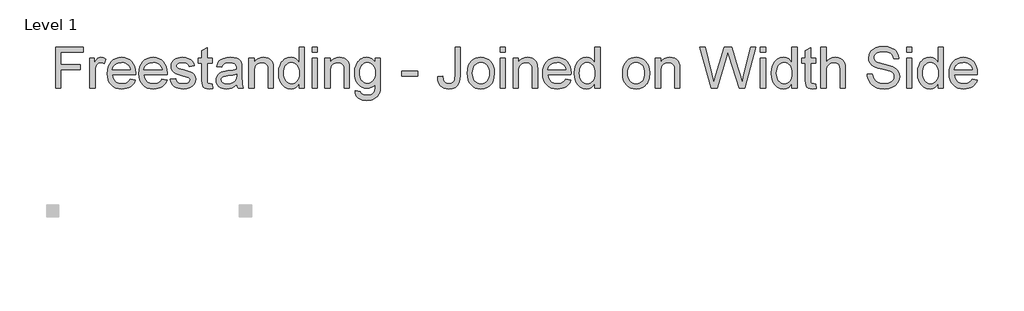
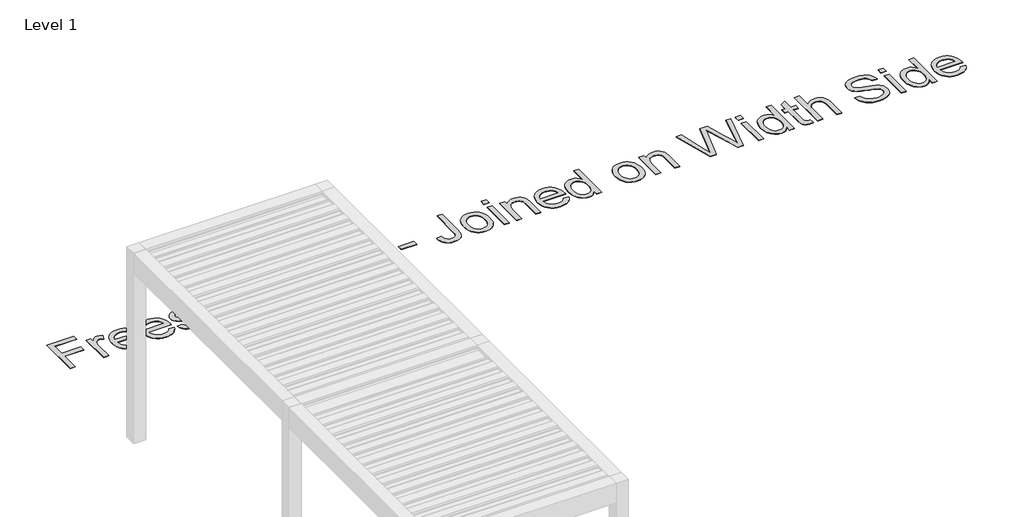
# One storey, part 8 of 69: 1 proxy.
"""IFC4 building model written with IfcOpenShell, lengths in millimetres."""

from ifc_helpers import new_model, si_unit, origin, origin_with_axes, place, context, project, spatial, polyline, outline, extrude, element, save

model = new_model("IFC4")

# Units and contexts
model_context = context("Model", 3, world=origin())
ifc_project = project(units=[si_unit("LENGTHUNIT", "METRE", prefix="MILLI")], contexts=[model_context])

# Site, building, storey
site = spatial("IfcSite", under=ifc_project)
building = spatial("IfcBuilding", under=site)
storey = spatial("IfcBuildingStorey", under=building, Name="Level 1", Elevation=0.0)

# Proxy
placement = place(None, origin())
element("IfcBuildingElementProxy", 1, Name="500mm Arial", ObjectType="500mm Arial", at=placement, inside=storey, context=model_context, shape_type="SweptSolid", body=[
    extrude(outline(polyline([(-6649.8308276, -47735.0305834), (-6649.8308276, -47232.7490326), (-6312.3604107, -47232.7490326), (-6312.3604107, -47295.5342265), (-6587.0456337, -47295.5342265), (-6587.0456337, -47444.6490618), (-6351.6011568, -47444.6490618), (-6351.6011568, -47507.4342557), (-6587.0456337, -47507.4342557), (-6587.0456337, -47735.0305834), (-6649.8308276, -47735.0305834)])), origin_with_axes(), (0.0, 0.0, 1.0), 5.0),
    extrude(outline(polyline([(-6233.8789184, -47735.0305834), (-6233.8789184, -47366.1675695), (-6178.9418738, -47366.1675695), (-6178.9418738, -47420.7367321), (-6158.6470504, -47389.0988806), (-6139.9463823, -47370.4595261), (-6121.1844005, -47361.3544468), (-6100.7056361, -47358.3194203), (-6069.4356665, -47363.1631999), (-6037.6751876, -47377.6945387), (-6058.6444613, -47433.980484), (-6080.717381, -47424.3235816), (-6102.7903007, -47421.1046141), (-6121.5369541, -47424.2009543), (-6138.2909133, -47433.4899746), (-6151.825905, -47448.2665681), (-6160.915656, -47467.8256275), (-6168.5492074, -47502.8970444), (-6171.0937245, -47541.1567719), (-6171.0937245, -47735.0305834), (-6233.8789184, -47735.0305834)])), origin_with_axes(), (0.0, 0.0, 1.0), 5.0),
    extrude(outline(polyline([(-5740.1812808, -47625.1564941), (-5678.6223603, -47633.0046434), (-5688.0608327, -47657.6604013), (-5700.8025789, -47679.3884316), (-5716.8475989, -47698.1887344), (-5736.1958926, -47714.0613096), (-5758.6481906, -47726.6689322), (-5784.0052235, -47735.6743769), (-5812.2669914, -47741.0776437), (-5843.4334942, -47742.8787326), (-5882.3906646, -47739.7708962), (-5917.1018637, -47730.4473868), (-5947.5670914, -47714.9082046), (-5973.7863478, -47693.1533496), (-5994.8705846, -47665.7882941), (-6009.9307538, -47633.4185106), (-6018.9668553, -47596.0439992), (-6021.9788891, -47553.6647597), (-6018.9361985, -47509.8484813), (-6009.8081265, -47471.228536), (-5994.5946731, -47437.8049239), (-5973.2958384, -47409.577645), (-5947.14556, -47387.1521717), (-5917.3777752, -47371.1339765), (-5883.9924841, -47361.5230593), (-5846.9896868, -47358.3194203), (-5811.1786738, -47361.5153951), (-5778.7935619, -47371.1033196), (-5749.8343511, -47387.0831938), (-5724.3010414, -47409.4550176), (-5703.4582271, -47437.6209829), (-5688.5705026, -47470.9832813), (-5679.6378679, -47509.5419129), (-5676.660323, -47553.2968777), (-5677.028205, -47570.2194495), (-5959.1936953, -47570.2194495), (-5955.5570285, -47595.2737462), (-5948.325848, -47617.2163744), (-5937.5001539, -47636.047334), (-5923.0799461, -47651.7666251), (-5905.8623023, -47664.1596498), (-5886.6443002, -47673.0118103), (-5865.4259397, -47678.3231066), (-5842.2072208, -47680.0935387), (-5808.7912729, -47676.8132576), (-5780.6483003, -47666.9724143), (-5757.7783029, -47649.957872), (-5740.1812808, -47625.1564941)]), holes=[polyline([(-5959.1936953, -47507.4342557), (-5739.4455168, -47507.4342557), (-5747.9374596, -47474.2635624), (-5764.5841199, -47450.5351738), (-5781.705961, -47437.6593039), (-5801.1883784, -47428.462254), (-5823.0313718, -47422.9440241), (-5847.2349414, -47421.1046141), (-5889.5566993, -47426.9753977), (-5907.9699596, -47434.313877), (-5924.5514741, -47444.5877482), (-5938.4658441, -47457.3218301), (-5948.877671, -47472.0409421), (-5955.7869547, -47488.7450839), (-5959.1936953, -47507.4342557)])]), origin_with_axes(), (0.0, 0.0, 1.0), 5.0),
    extrude(outline(polyline([(-5355.6219685, -47625.1564941), (-5294.063048, -47633.0046434), (-5303.5015205, -47657.6604013), (-5316.2432666, -47679.3884316), (-5332.2882866, -47698.1887344), (-5351.6365803, -47714.0613096), (-5374.0888783, -47726.6689322), (-5399.4459112, -47735.6743769), (-5427.7076791, -47741.0776437), (-5458.8741819, -47742.8787326), (-5497.8313523, -47739.7708962), (-5532.5425514, -47730.4473868), (-5563.0077791, -47714.9082046), (-5589.2270355, -47693.1533496), (-5610.3112723, -47665.7882941), (-5625.3714415, -47633.4185106), (-5634.407543, -47596.0439992), (-5637.4195769, -47553.6647597), (-5634.3768862, -47509.8484813), (-5625.2488142, -47471.228536), (-5610.0353608, -47437.8049239), (-5588.7365262, -47409.577645), (-5562.5862477, -47387.1521717), (-5532.8184629, -47371.1339765), (-5499.4331718, -47361.5230593), (-5462.4303745, -47358.3194203), (-5426.6193615, -47361.5153951), (-5394.2342496, -47371.1033196), (-5365.2750388, -47387.0831938), (-5339.7417291, -47409.4550176), (-5318.8989148, -47437.6209829), (-5304.0111903, -47470.9832813), (-5295.0785556, -47509.5419129), (-5292.1010107, -47553.2968777), (-5292.4688927, -47570.2194495), (-5574.634383, -47570.2194495), (-5570.9977162, -47595.2737462), (-5563.7665357, -47617.2163744), (-5552.9408416, -47636.047334), (-5538.5206338, -47651.7666251), (-5521.30299, -47664.1596498), (-5502.0849879, -47673.0118103), (-5480.8666274, -47678.3231066), (-5457.6479085, -47680.0935387), (-5424.2319606, -47676.8132576), (-5396.088988, -47666.9724143), (-5373.2189906, -47649.957872), (-5355.6219685, -47625.1564941)]), holes=[polyline([(-5574.634383, -47507.4342557), (-5354.8862046, -47507.4342557), (-5363.3781473, -47474.2635624), (-5380.0248076, -47450.5351738), (-5397.1466488, -47437.6593039), (-5416.6290661, -47428.462254), (-5438.4720595, -47422.9440241), (-5462.6756291, -47421.1046141), (-5504.997387, -47426.9753977), (-5523.4106473, -47434.313877), (-5539.9921618, -47444.5877482), (-5553.9065318, -47457.3218301), (-5564.3183587, -47472.0409421), (-5571.2276424, -47488.7450839), (-5574.634383, -47507.4342557)])]), origin_with_axes(), (0.0, 0.0, 1.0), 5.0),
    extrude(outline(polyline([(-5252.8602646, -47625.1564941), (-5190.0750707, -47617.3083449), (-5180.1729137, -47644.1637306), (-5161.0123931, -47663.906731), (-5132.4708816, -47676.0468368), (-5094.425752, -47680.0935387), (-5056.8404748, -47676.384062), (-5030.4142848, -47665.2556316), (-5014.7793, -47649.1301375), (-5009.5676384, -47630.4294694), (-5014.8099568, -47614.4266026), (-5030.5369121, -47602.2251831), (-5095.161516, -47584.3215927), (-5152.4591367, -47567.7515745), (-5189.7071887, -47553.6034461), (-5213.6348468, -47538.1677307), (-5230.9712858, -47517.7349515), (-5241.501908, -47493.608024), (-5245.0121153, -47467.0898635), (-5242.1916867, -47442.7636666), (-5233.7304008, -47420.3075365), (-5220.3946785, -47400.6105213), (-5202.9509405, -47384.5616693), (-5185.6145015, -47374.4602428), (-5163.0357441, -47365.9836285), (-5136.9314508, -47360.2354724), (-5109.0184044, -47358.3194203), (-5068.1528461, -47361.400432), (-5032.6215768, -47370.6434671), (-5004.0494085, -47385.1441491), (-4984.0611534, -47403.9981014), (-4970.8174016, -47428.6002098), (-4962.478743, -47460.3453603), (-5025.2639369, -47468.1935095), (-5033.1887282, -47448.4351807), (-5048.8696982, -47433.5512883), (-5072.4601312, -47424.2162827), (-5104.1133112, -47421.1046141), (-5140.1657467, -47424.0783269), (-5164.2007037, -47432.9994653), (-5177.720367, -47445.8753352), (-5182.2269215, -47460.7132423), (-5180.3568547, -47470.3701447), (-5174.7466543, -47478.9847147), (-5165.1510655, -47486.6795798), (-5151.3248339, -47492.8416032), (-5097.2461806, -47506.2079824), (-5005.0917408, -47535.7611693), (-4980.7502155, -47549.8939693), (-4962.294802, -47569.2384309), (-4950.6605339, -47593.8558677), (-4946.7824446, -47623.8075935), (-4951.3349843, -47654.7709947), (-4964.9926033, -47683.894986), (-4987.2341356, -47708.8956333), (-5017.538415, -47727.4890025), (-5054.1426735, -47739.0313001), (-5095.2841433, -47742.8787326), (-5129.0756374, -47741.0239942), (-5158.5905033, -47735.459779), (-5183.828741, -47726.1860871), (-5204.7903505, -47713.2029183), (-5221.9121917, -47696.5715864), (-5235.6311245, -47676.3534051), (-5245.9471487, -47652.5483744), (-5252.8602646, -47625.1564941)])), origin_with_axes(), (0.0, 0.0, 1.0), 5.0),
    extrude(outline(polyline([(-4742.7305646, -47682.6687127), (-4734.8824154, -47736.8699933), (-4781.8486834, -47742.8787326), (-4811.9843502, -47740.2729018), (-4834.4558087, -47732.4554094), (-4850.3360482, -47720.4072741), (-4860.6980577, -47705.1095144), (-4866.4002286, -47678.8366086), (-4868.3009523, -47633.8630347), (-4868.3009523, -47428.9527634), (-4915.3898477, -47428.9527634), (-4915.3898477, -47366.1675695), (-4868.3009523, -47366.1675695), (-4868.3009523, -47276.52699), (-4805.5157584, -47239.6161632), (-4805.5157584, -47366.1675695), (-4742.7305646, -47366.1675695), (-4742.7305646, -47428.9527634), (-4805.5157584, -47428.9527634), (-4805.5157584, -47632.0236247), (-4802.2048205, -47664.3972403), (-4791.4749289, -47675.8628958), (-4770.0764596, -47680.0935387), (-4742.7305646, -47682.6687127)])), origin_with_axes(), (0.0, 0.0, 1.0), 5.0),
    extrude(outline(polyline([(-4444.5008938, -47687.941688), (-4474.4986048, -47713.6627708), (-4505.385364, -47730.4933721), (-4537.8662785, -47739.7823925), (-4572.6464555, -47742.8787326), (-4600.601655, -47741.01633), (-4625.115625, -47735.4291222), (-4646.1883656, -47726.1171092), (-4663.8198766, -47713.080291), (-4677.7419109, -47697.1464021), (-4687.6862211, -47679.1431769), (-4693.6528072, -47659.0706156), (-4695.6416692, -47636.928718), (-4692.6372996, -47610.9010668), (-4683.6241907, -47587.2646486), (-4669.721317, -47567.0311389), (-4652.0476528, -47551.2122131), (-4631.2776485, -47539.2560483), (-4608.0857543, -47530.6108214), (-4553.7618464, -47521.1685168), (-4489.5664382, -47511.235703), (-4444.8687758, -47499.5861064), (-4444.5008938, -47485.6065906), (-4448.8235073, -47457.5862453), (-4461.7913476, -47439.2534592), (-4474.8664868, -47431.3133395), (-4490.7927116, -47425.6418254), (-4531.1984174, -47421.1046141), (-4568.5997535, -47424.1243122), (-4594.7193752, -47433.1834063), (-4612.5309951, -47449.9373655), (-4625.0083261, -47476.0416588), (-4687.79352, -47468.1935095), (-4676.8950159, -47433.8578566), (-4660.631566, -47406.8798437), (-4637.4856571, -47386.2477951), (-4605.939776, -47370.9500355), (-4567.3581518, -47361.4770741), (-4523.1050135, -47358.3194203), (-4480.6606283, -47361.1091921), (-4447.0147541, -47369.4785075), (-4421.6462249, -47382.0631374), (-4404.0338744, -47397.4988528), (-4392.353621, -47416.5827313), (-4384.7813833, -47440.1118506), (-4381.7157, -47495.0488952), (-4381.7157, -47573.1625055), (-4378.5273894, -47682.2395171), (-4373.8062371, -47709.2022016), (-4366.0194015, -47735.0305834), (-4428.8045954, -47735.0305834), (-4438.8600366, -47713.2029183), (-4444.5008938, -47687.941688)]), holes=[polyline([(-4444.5008938, -47562.3713003), (-4486.6846959, -47572.8252803), (-4545.7910698, -47581.6237914), (-4599.8084095, -47591.8018599), (-4613.8645674, -47598.760961), (-4624.2725621, -47608.3565497), (-4630.710497, -47619.852862), (-4632.8564754, -47632.514134), (-4628.1813083, -47651.1841453), (-4614.1558073, -47666.4819049), (-4591.0865405, -47676.6906303), (-4559.2800763, -47680.0935387), (-4525.5575601, -47676.3380767), (-4495.7591185, -47665.0716906), (-4471.6015341, -47648.4710156), (-4454.8015897, -47628.7126868), (-4447.3519793, -47608.3565497), (-4444.8687758, -47580.1522634), (-4444.5008938, -47562.3713003)])]), origin_with_axes(), (0.0, 0.0, 1.0), 5.0),
    extrude(outline(polyline([(-4295.3860584, -47735.0305834), (-4295.3860584, -47366.1675695), (-4232.6008646, -47366.1675695), (-4232.6008646, -47417.6710489), (-4210.788528, -47391.7047114), (-4184.5922642, -47373.1573274), (-4154.0120734, -47362.0288971), (-4119.0479554, -47358.3194203), (-4088.0998826, -47361.3084615), (-4059.7576405, -47370.2755851), (-4036.1212223, -47384.1018168), (-4019.2906211, -47401.6681821), (-4007.8709508, -47422.9286957), (-4000.4673256, -47447.8373725), (-3997.1563877, -47508.5379017), (-3997.1563877, -47735.0305834), (-4059.9415815, -47735.0305834), (-4059.9415815, -47516.9991876), (-4061.7503347, -47484.5336015), (-4067.1765941, -47461.4490063), (-4077.1860501, -47444.9096449), (-4092.7443928, -47432.0797603), (-4112.6866626, -47423.8484007), (-4135.8478999, -47421.1046141), (-4154.9126179, -47422.64512), (-4172.620771, -47427.2666376), (-4188.9723592, -47434.9691668), (-4203.9673826, -47445.7527078), (-4216.494531, -47460.8435338), (-4225.4424941, -47481.4679182), (-4230.811272, -47507.6258609), (-4232.6008646, -47539.3173619), (-4232.6008646, -47735.0305834), (-4295.3860584, -47735.0305834)])), origin_with_axes(), (0.0, 0.0, 1.0), 5.0),
    extrude(outline(polyline([(-3683.2304185, -47735.0305834), (-3683.2304185, -47675.8015821), (-3702.0153929, -47705.1478355), (-3724.7704271, -47726.109445), (-3751.4955212, -47738.6864107), (-3782.1906752, -47742.8787326), (-3822.780322, -47736.8086797), (-3859.9364035, -47718.5985209), (-3891.3903141, -47689.5205149), (-3914.8734481, -47650.8469201), (-3929.4967574, -47604.1412352), (-3934.3711938, -47550.9669584), (-3929.8799678, -47498.4518036), (-3916.4062897, -47451.0256831), (-3906.3048633, -47429.895461), (-3893.965488, -47411.3863981), (-3879.388164, -47395.4984944), (-3862.5728911, -47382.23175), (-3824.6044035, -47364.2975027), (-3782.4359298, -47358.3194203), (-3751.7177832, -47362.5960485), (-3724.5558293, -47375.4259331), (-3701.5325477, -47395.0922914), (-3683.2304185, -47419.8783408), (-3683.2304185, -47232.7490326), (-3620.4452246, -47232.7490326), (-3620.4452246, -47735.0305834), (-3683.2304185, -47735.0305834)]), holes=[polyline([(-3871.586, -47550.7217038), (-3869.8155679, -47581.167771), (-3864.5042716, -47607.5134868), (-3855.6521111, -47629.7588512), (-3843.2590864, -47647.9038642), (-3828.4595003, -47661.9868468), (-3812.3876556, -47672.0461201), (-3795.0435524, -47678.0816841), (-3776.4271906, -47680.0935387), (-3757.7226904, -47678.1736546), (-3740.482054, -47672.4140021), (-3724.7052813, -47662.8145813), (-3710.3923724, -47649.3753922), (-3698.5090176, -47631.9891358), (-3690.020907, -47610.5485132), (-3684.9280406, -47585.0535246), (-3683.2304185, -47555.5041697), (-3684.9586974, -47523.1075615), (-3690.1435343, -47495.3248067), (-3698.7849291, -47472.1559052), (-3710.8828818, -47453.6008571), (-3725.5100232, -47439.3837508), (-3741.7389841, -47429.2286749), (-3759.5697646, -47423.1356293), (-3779.0023645, -47421.1046141), (-3797.9866083, -47423.0551551), (-3815.3307116, -47428.9067781), (-3831.0346742, -47438.6594831), (-3845.0984963, -47452.3132701), (-3856.6867792, -47470.1670431), (-3864.9641241, -47492.5197065), (-3869.930531, -47519.37126), (-3871.586, -47550.7217038)])]), origin_with_axes(), (0.0, 0.0, 1.0), 5.0),
    extrude(outline(polyline([(-3526.2674339, -47735.0305834), (-3526.2674339, -47366.1675695), (-3463.48224, -47366.1675695), (-3463.48224, -47735.0305834), (-3526.2674339, -47735.0305834)])), origin_with_axes(), (0.0, 0.0, 1.0), 5.0),
    extrude(outline(polyline([(-3526.2674339, -47295.5342265), (-3526.2674339, -47232.7490326), (-3463.48224, -47232.7490326), (-3463.48224, -47295.5342265), (-3526.2674339, -47295.5342265)])), origin_with_axes(), (0.0, 0.0, 1.0), 5.0),
    extrude(outline(polyline([(-3369.3044493, -47735.0305834), (-3369.3044493, -47366.1675695), (-3306.5192554, -47366.1675695), (-3306.5192554, -47417.6710489), (-3284.7069188, -47391.7047114), (-3258.510655, -47373.1573274), (-3227.9304642, -47362.0288971), (-3192.9663462, -47358.3194203), (-3162.0182734, -47361.3084615), (-3133.6760313, -47370.2755851), (-3110.0396132, -47384.1018168), (-3093.2090119, -47401.6681821), (-3081.7893416, -47422.9286957), (-3074.3857165, -47447.8373725), (-3071.0747785, -47508.5379017), (-3071.0747785, -47735.0305834), (-3133.8599723, -47735.0305834), (-3133.8599723, -47516.9991876), (-3135.6687255, -47484.5336015), (-3141.0949849, -47461.4490063), (-3151.1044409, -47444.9096449), (-3166.6627836, -47432.0797603), (-3186.6050534, -47423.8484007), (-3209.7662907, -47421.1046141), (-3228.8310087, -47422.64512), (-3246.5391618, -47427.2666376), (-3262.89075, -47434.9691668), (-3277.8857735, -47445.7527078), (-3290.4129218, -47460.8435338), (-3299.3608849, -47481.4679182), (-3304.7296628, -47507.6258609), (-3306.5192554, -47539.3173619), (-3306.5192554, -47735.0305834), (-3369.3044493, -47735.0305834)])), origin_with_axes(), (0.0, 0.0, 1.0), 5.0),
    extrude(outline(polyline([(-3000.4414354, -47766.4231803), (-2937.6562416, -47774.2713295), (-2930.7277973, -47793.8917026), (-2917.3001045, -47807.3807091), (-2890.9045714, -47817.8653459), (-2856.3543206, -47821.3602249), (-2819.5048075, -47817.4054934), (-2792.0975988, -47805.5412991), (-2773.0903624, -47786.5340627), (-2761.4407659, -47761.150205), (-2758.0378574, -47734.1415352), (-2757.1488093, -47687.941688), (-2778.0414409, -47708.5430797), (-2801.3559624, -47723.2583595), (-2827.0923736, -47732.0875274), (-2855.2506747, -47735.0305834), (-2889.6744659, -47731.6046823), (-2919.9825774, -47721.326979), (-2946.175009, -47704.1974736), (-2968.2517608, -47680.2161661), (-2985.7683088, -47651.4447284), (-2998.2801287, -47619.9448325), (-3005.7872207, -47585.7164786), (-3008.2895847, -47548.7596665), (-3003.7983586, -47498.0685932), (-2990.3246806, -47451.4548787), (-2968.3437313, -47411.9535495), (-2954.3412229, -47396.0081643), (-2938.3306919, -47382.599632), (-2920.5688893, -47371.9770394), (-2901.3125661, -47364.3894732), (-2880.5617223, -47359.8369335), (-2858.316358, -47358.3194203), (-2828.9547762, -47361.7529856), (-2802.3063242, -47372.0536815), (-2778.3710019, -47389.2215079), (-2757.1488093, -47413.2564649), (-2757.1488093, -47366.1675695), (-2694.3636154, -47366.1675695), (-2694.3636154, -47684.63075), (-2698.655572, -47758.1611638), (-2704.0205178, -47785.5108909), (-2711.5314419, -47806.5836314), (-2733.7116605, -47838.6966639), (-2765.9166635, -47863.2987723), (-2785.6021823, -47872.4191801), (-2807.4413437, -47878.9337571), (-2857.580594, -47884.1454187), (-2888.3408937, -47882.3098409), (-2915.9971891, -47876.8031073), (-2940.5494802, -47867.6252179), (-2961.9977669, -47854.7761728), (-2979.3227096, -47838.2406435), (-2991.5049686, -47818.0033017), (-2998.5445439, -47794.0641473), (-3000.4414354, -47766.4231803)]), holes=[polyline([(-2945.5043908, -47544.4677099), (-2943.8297613, -47575.5115853), (-2938.8058728, -47602.0565705), (-2930.4327253, -47624.1026655), (-2918.7103188, -47641.6498703), (-2904.4587236, -47655.0354099), (-2888.49801, -47664.5965097), (-2870.8281779, -47670.3331696), (-2851.4492274, -47672.2453895), (-2832.2618821, -47670.3446659), (-2814.6763563, -47664.642495), (-2798.69265, -47655.1388767), (-2784.3107633, -47641.8338112), (-2772.4274084, -47624.4590512), (-2763.9392978, -47602.7463493), (-2758.8464314, -47576.6957055), (-2757.1488093, -47546.3071198), (-2758.8962488, -47517.1869607), (-2764.1385672, -47491.875913), (-2772.8757646, -47470.3739768), (-2785.1078409, -47452.6811521), (-2799.8001281, -47438.8664167), (-2815.917958, -47428.9987486), (-2833.4613307, -47423.0781478), (-2852.430246, -47421.1046141), (-2871.0810968, -47423.0474909), (-2888.2834121, -47428.8761213), (-2904.0371922, -47438.5905052), (-2918.3424368, -47452.1906427), (-2930.2257917, -47469.6152202), (-2938.7139023, -47490.8029238), (-2943.8067687, -47515.7537537), (-2945.5043908, -47544.4677099)])]), origin_with_axes(), (0.0, 0.0, 1.0), 5.0),
    extrude(outline(polyline([(-2435.3746908, -47585.915748), (-2435.3746908, -47523.1305541), (-2239.1709601, -47523.1305541), (-2239.1709601, -47585.915748), (-2435.3746908, -47585.915748)])), origin_with_axes(), (0.0, 0.0, 1.0), 5.0),
    extrude(outline(polyline([(-1995.8783339, -47594.0091519), (-1933.0931401, -47585.915748), (-1926.5632347, -47631.5637722), (-1920.1482924, -47647.972842), (-1911.633357, -47660.1052837), (-1888.8246733, -47675.096475), (-1858.6583497, -47680.0935387), (-1835.4664556, -47677.2577817), (-1815.67747, -47668.7505106), (-1800.4103672, -47655.3534746), (-1790.7841216, -47637.848423), (-1785.6797589, -47612.5105506), (-1783.9783047, -47575.6150521), (-1783.9783047, -47232.7490326), (-1721.1931109, -47232.7490326), (-1721.1931109, -47574.5114061), (-1724.9792297, -47630.414141), (-1736.3375863, -47672.0614485), (-1755.9273026, -47702.4883552), (-1784.4075004, -47724.7298875), (-1820.168696, -47738.3415213), (-1861.6014057, -47742.8787326), (-1892.5418143, -47740.537317), (-1919.6347904, -47733.5130701), (-1942.880334, -47721.8059921), (-1962.278445, -47705.4160827), (-1977.4842342, -47684.4046559), (-1988.152812, -47658.8330251), (-1994.2841786, -47628.7011904), (-1995.8783339, -47594.0091519)])), origin_with_axes(), (0.0, 0.0, 1.0), 5.0),
    extrude(outline(polyline([(-1634.8634693, -47550.5990764), (-1631.4682251, -47502.8280665), (-1621.2824923, -47461.6636041), (-1604.3062711, -47427.1056892), (-1580.5395614, -47399.1543218), (-1556.6119033, -47381.2890524), (-1530.2010417, -47368.5281457), (-1501.3069767, -47360.8716016), (-1469.9297082, -47358.3194203), (-1435.291319, -47361.4272567), (-1403.9715321, -47370.7507661), (-1375.9703473, -47386.2899482), (-1351.2877647, -47408.0448033), (-1331.1423934, -47435.2795673), (-1316.7528424, -47467.2584761), (-1308.1191118, -47503.9815299), (-1305.2412016, -47545.4487285), (-1310.3302359, -47608.8777158), (-1316.6915287, -47634.9130312), (-1325.5973387, -47657.1622277), (-1336.9365348, -47676.3802299), (-1350.597986, -47693.3219622), (-1366.5816922, -47707.9874246), (-1384.8876536, -47720.3766172), (-1425.6152562, -47737.2532037), (-1469.9297082, -47742.8787326), (-1505.073935, -47739.7823925), (-1536.6849619, -47730.4933721), (-1564.7627887, -47715.0116715), (-1589.3074156, -47693.3372906), (-1609.2381891, -47665.8381114), (-1623.4744559, -47632.882016), (-1632.016216, -47594.4690044), (-1634.8634693, -47550.5990764)]), holes=[polyline([(-1572.0782755, -47550.4764491), (-1570.2618581, -47580.9301805), (-1564.8126061, -47607.298889), (-1555.7305193, -47629.5825744), (-1543.0155979, -47647.7812368), (-1527.5492257, -47661.9178689), (-1510.2127866, -47672.0154633), (-1491.0062808, -47678.0740199), (-1469.9297082, -47680.0935387), (-1448.9604344, -47678.0625236), (-1429.8305707, -47671.969478), (-1412.5401169, -47661.8144021), (-1397.0890731, -47647.5972958), (-1384.3741517, -47629.2185245), (-1375.2920649, -47606.5784534), (-1369.8428128, -47579.6770825), (-1368.0263955, -47548.5144118), (-1369.8543092, -47519.0263706), (-1375.3380501, -47493.3474409), (-1384.4776185, -47471.4776228), (-1397.2730141, -47453.4169161), (-1412.7815395, -47439.280284), (-1430.0604969, -47429.1826896), (-1449.1098865, -47423.124133), (-1469.9297082, -47421.1046141), (-1491.0062808, -47423.1164688), (-1510.2127866, -47429.1520328), (-1527.5492257, -47439.2113061), (-1543.0155979, -47453.2942887), (-1555.7305193, -47471.4393017), (-1564.8126061, -47493.6846661), (-1570.2618581, -47520.0303819), (-1572.0782755, -47550.4764491)])]), origin_with_axes(), (0.0, 0.0, 1.0), 5.0),
    extrude(outline(polyline([(-1234.6078586, -47295.5342265), (-1234.6078586, -47232.7490326), (-1171.8226647, -47232.7490326), (-1171.8226647, -47295.5342265), (-1234.6078586, -47295.5342265)])), origin_with_axes(), (0.0, 0.0, 1.0), 5.0),
    extrude(outline(polyline([(-1234.6078586, -47735.0305834), (-1234.6078586, -47366.1675695), (-1171.8226647, -47366.1675695), (-1171.8226647, -47735.0305834), (-1234.6078586, -47735.0305834)])), origin_with_axes(), (0.0, 0.0, 1.0), 5.0),
    extrude(outline(polyline([(-1077.644874, -47735.0305834), (-1077.644874, -47366.1675695), (-1014.8596801, -47366.1675695), (-1014.8596801, -47417.6710489), (-993.0473435, -47391.7047114), (-966.8510798, -47373.1573274), (-936.2708889, -47362.0288971), (-901.3067709, -47358.3194203), (-870.3586981, -47361.3084615), (-842.0164561, -47370.2755851), (-818.3800379, -47384.1018168), (-801.5494366, -47401.6681821), (-790.1297663, -47422.9286957), (-782.7261412, -47447.8373725), (-779.4152032, -47508.5379017), (-779.4152032, -47735.0305834), (-842.2003971, -47735.0305834), (-842.2003971, -47516.9991876), (-844.0091502, -47484.5336015), (-849.4354096, -47461.4490063), (-859.4448656, -47444.9096449), (-875.0032083, -47432.0797603), (-894.9454781, -47423.8484007), (-918.1067154, -47421.1046141), (-937.1714334, -47422.64512), (-954.8795865, -47427.2666376), (-971.2311748, -47434.9691668), (-986.2261982, -47445.7527078), (-998.7533465, -47460.8435338), (-1007.7013096, -47481.4679182), (-1013.0700875, -47507.6258609), (-1014.8596801, -47539.3173619), (-1014.8596801, -47735.0305834), (-1077.644874, -47735.0305834)])), origin_with_axes(), (0.0, 0.0, 1.0), 5.0),
    extrude(outline(polyline([(-434.8324011, -47625.1564941), (-373.2734805, -47633.0046434), (-382.711953, -47657.6604013), (-395.4536992, -47679.3884316), (-411.4987191, -47698.1887344), (-430.8470128, -47714.0613096), (-453.2993108, -47726.6689322), (-478.6563437, -47735.6743769), (-506.9181116, -47741.0776437), (-538.0846144, -47742.8787326), (-577.0417848, -47739.7708962), (-611.7529839, -47730.4473868), (-642.2182116, -47714.9082046), (-668.437468, -47693.1533496), (-689.5217048, -47665.7882941), (-704.581874, -47633.4185106), (-713.6179755, -47596.0439992), (-716.6300094, -47553.6647597), (-713.5873187, -47509.8484813), (-704.4592467, -47471.228536), (-689.2457934, -47437.8049239), (-667.9469587, -47409.577645), (-641.7966802, -47387.1521717), (-612.0288954, -47371.1339765), (-578.6436043, -47361.5230593), (-541.640807, -47358.3194203), (-505.829794, -47361.5153951), (-473.4446821, -47371.1033196), (-444.4854713, -47387.0831938), (-418.9521616, -47409.4550176), (-398.1093473, -47437.6209829), (-383.2216228, -47470.9832813), (-374.2889881, -47509.5419129), (-371.3114432, -47553.2968777), (-371.6793252, -47570.2194495), (-653.8448155, -47570.2194495), (-650.2081487, -47595.2737462), (-642.9769682, -47617.2163744), (-632.1512741, -47636.047334), (-617.7310663, -47651.7666251), (-600.5134225, -47664.1596498), (-581.2954204, -47673.0118103), (-560.0770599, -47678.3231066), (-536.8583411, -47680.0935387), (-503.4423932, -47676.8132576), (-475.2994205, -47666.9724143), (-452.4294232, -47649.957872), (-434.8324011, -47625.1564941)]), holes=[polyline([(-653.8448155, -47507.4342557), (-434.0966371, -47507.4342557), (-442.5885798, -47474.2635624), (-459.2352401, -47450.5351738), (-476.3570813, -47437.6593039), (-495.8394986, -47428.462254), (-517.6824921, -47422.9440241), (-541.8860617, -47421.1046141), (-584.2078195, -47426.9753977), (-602.6210798, -47434.313877), (-619.2025943, -47444.5877482), (-633.1169644, -47457.3218301), (-643.5287912, -47472.0409421), (-650.438075, -47488.7450839), (-653.8448155, -47507.4342557)])]), origin_with_axes(), (0.0, 0.0, 1.0), 5.0),
    extrude(outline(polyline([(-80.9299217, -47735.0305834), (-80.9299217, -47675.8015821), (-99.7148961, -47705.1478355), (-122.4699303, -47726.109445), (-149.1950244, -47738.6864107), (-179.8901784, -47742.8787326), (-220.4798252, -47736.8086797), (-257.6359067, -47718.5985209), (-289.0898173, -47689.5205149), (-312.5729513, -47650.8469201), (-327.1962606, -47604.1412352), (-332.0706971, -47550.9669584), (-327.5794711, -47498.4518036), (-314.105793, -47451.0256831), (-304.0043665, -47429.895461), (-291.6649913, -47411.3863981), (-277.0876672, -47395.4984944), (-260.2723943, -47382.23175), (-222.3039068, -47364.2975027), (-180.1354331, -47358.3194203), (-149.4172865, -47362.5960485), (-122.2553325, -47375.4259331), (-99.232051, -47395.0922914), (-80.9299217, -47419.8783408), (-80.9299217, -47232.7490326), (-18.1447279, -47232.7490326), (-18.1447279, -47735.0305834), (-80.9299217, -47735.0305834)]), holes=[polyline([(-269.2855032, -47550.7217038), (-267.5150711, -47581.167771), (-262.2037748, -47607.5134868), (-253.3516143, -47629.7588512), (-240.9585896, -47647.9038642), (-226.1590035, -47661.9868468), (-210.0871588, -47672.0461201), (-192.7430556, -47678.0816841), (-174.1266938, -47680.0935387), (-155.4221936, -47678.1736546), (-138.1815572, -47672.4140021), (-122.4047846, -47662.8145813), (-108.0918757, -47649.3753922), (-96.2085208, -47631.9891358), (-87.7204102, -47610.5485132), (-82.6275438, -47585.0535246), (-80.9299217, -47555.5041697), (-82.6582007, -47523.1075615), (-87.8430375, -47495.3248067), (-96.4844323, -47472.1559052), (-108.582385, -47453.6008571), (-123.2095264, -47439.3837508), (-139.4384874, -47429.2286749), (-157.2692678, -47423.1356293), (-176.7018678, -47421.1046141), (-195.6861116, -47423.0551551), (-213.0302148, -47428.9067781), (-228.7341775, -47438.6594831), (-242.7979996, -47452.3132701), (-254.3862824, -47470.1670431), (-262.6636273, -47492.5197065), (-267.6300343, -47519.37126), (-269.2855032, -47550.7217038)])]), origin_with_axes(), (0.0, 0.0, 1.0), 5.0),
    extrude(outline(polyline([(256.5404952, -47550.5990764), (259.9357395, -47502.8280665), (270.1214722, -47461.6636041), (287.0976934, -47427.1056892), (310.8644032, -47399.1543218), (334.7920613, -47381.2890524), (361.2029228, -47368.5281457), (390.0969879, -47360.8716016), (421.4742564, -47358.3194203), (456.1126455, -47361.4272567), (487.4324324, -47370.7507661), (515.4336172, -47386.2899482), (540.1161998, -47408.0448033), (560.2615712, -47435.2795673), (574.6511221, -47467.2584761), (583.2848527, -47503.9815299), (586.1627629, -47545.4487285), (581.0737286, -47608.8777158), (574.7124358, -47634.9130312), (565.8066258, -47657.1622277), (554.4674297, -47676.3802299), (540.8059786, -47693.3219622), (524.8222723, -47707.9874246), (506.5163109, -47720.3766172), (465.7887084, -47737.2532037), (421.4742564, -47742.8787326), (386.3300295, -47739.7823925), (354.7190027, -47730.4933721), (326.6411758, -47715.0116715), (302.0965489, -47693.3372906), (282.1657754, -47665.8381114), (267.9295086, -47632.882016), (259.3877486, -47594.4690044), (256.5404952, -47550.5990764)]), holes=[polyline([(319.3256891, -47550.4764491), (321.1421064, -47580.9301805), (326.5913585, -47607.298889), (335.6734452, -47629.5825744), (348.3883667, -47647.7812368), (363.8547389, -47661.9178689), (381.1911779, -47672.0154633), (400.3976837, -47678.0740199), (421.4742564, -47680.0935387), (442.4435301, -47678.0625236), (461.5733939, -47671.969478), (478.8638476, -47661.8144021), (494.3148914, -47647.5972958), (507.0298129, -47629.2185245), (516.1118996, -47606.5784534), (521.5611517, -47579.6770825), (523.377569, -47548.5144118), (521.5496554, -47519.0263706), (516.0659144, -47493.3474409), (506.9263461, -47471.4776228), (494.1309504, -47453.4169161), (478.6224251, -47439.280284), (461.3434676, -47429.1826896), (442.294078, -47423.124133), (421.4742564, -47421.1046141), (400.3976837, -47423.1164688), (381.1911779, -47429.1520328), (363.8547389, -47439.2113061), (348.3883667, -47453.2942887), (335.6734452, -47471.4393017), (326.5913585, -47493.6846661), (321.1421064, -47520.0303819), (319.3256891, -47550.4764491)])]), origin_with_axes(), (0.0, 0.0, 1.0), 5.0),
    extrude(outline(polyline([(656.796106, -47735.0305834), (656.796106, -47366.1675695), (719.5812998, -47366.1675695), (719.5812998, -47417.6710489), (741.3936364, -47391.7047114), (767.5899002, -47373.1573274), (798.170091, -47362.0288971), (833.134209, -47358.3194203), (864.0822818, -47361.3084615), (892.4245239, -47370.2755851), (916.0609421, -47384.1018168), (932.8915433, -47401.6681821), (944.3112136, -47422.9286957), (951.7148388, -47447.8373725), (955.0257767, -47508.5379017), (955.0257767, -47735.0305834), (892.2405829, -47735.0305834), (892.2405829, -47516.9991876), (890.4318297, -47484.5336015), (885.0055703, -47461.4490063), (874.9961143, -47444.9096449), (859.4377716, -47432.0797603), (839.4955018, -47423.8484007), (816.3342645, -47421.1046141), (797.2695466, -47422.64512), (779.5613934, -47427.2666376), (763.2098052, -47434.9691668), (748.2147818, -47445.7527078), (735.6876334, -47460.8435338), (726.7396703, -47481.4679182), (721.3708924, -47507.6258609), (719.5812998, -47539.3173619), (719.5812998, -47735.0305834), (656.796106, -47735.0305834)])), origin_with_axes(), (0.0, 0.0, 1.0), 5.0),
    extrude(outline(polyline([(1335.2931324, -47735.0305834), (1198.3184029, -47232.7490326), (1263.065634, -47232.7490326), (1342.528145, -47562.8618096), (1367.0536113, -47664.7651223), (1393.2958603, -47574.6340335), (1492.8692537, -47232.7490326), (1586.1886531, -47232.7490326), (1658.5387788, -47480.57887), (1689.5328369, -47572.5493688), (1712.3721775, -47664.7651223), (1736.1618798, -47565.8048656), (1816.3601548, -47232.7490326), (1881.1073859, -47232.7490326), (1744.010029, -47735.0305834), (1676.9328786, -47735.0305834), (1556.5128388, -47347.5282151), (1539.7128944, -47293.4495618), (1520.8282853, -47358.564675), (1411.0768234, -47735.0305834), (1335.2931324, -47735.0305834)])), origin_with_axes(), (0.0, 0.0, 1.0), 5.0),
    extrude(outline(polyline([(1936.0444305, -47735.0305834), (1936.0444305, -47366.1675695), (1998.8296244, -47366.1675695), (1998.8296244, -47735.0305834), (1936.0444305, -47735.0305834)])), origin_with_axes(), (0.0, 0.0, 1.0), 5.0),
    extrude(outline(polyline([(1936.0444305, -47295.5342265), (1936.0444305, -47232.7490326), (1998.8296244, -47232.7490326), (1998.8296244, -47295.5342265), (1936.0444305, -47295.5342265)])), origin_with_axes(), (0.0, 0.0, 1.0), 5.0),
    extrude(outline(polyline([(2320.6037428, -47735.0305834), (2320.6037428, -47675.8015821), (2301.8187684, -47705.1478355), (2279.0637342, -47726.109445), (2252.3386401, -47738.6864107), (2221.6434861, -47742.8787326), (2181.0538393, -47736.8086797), (2143.8977578, -47718.5985209), (2112.4438472, -47689.5205149), (2088.9607132, -47650.8469201), (2074.3374039, -47604.1412352), (2069.4629674, -47550.9669584), (2073.9541935, -47498.4518036), (2087.4278715, -47451.0256831), (2097.529298, -47429.895461), (2109.8686732, -47411.3863981), (2124.4459973, -47395.4984944), (2141.2612702, -47382.23175), (2179.2297578, -47364.2975027), (2221.3982314, -47358.3194203), (2252.116378, -47362.5960485), (2279.278332, -47375.4259331), (2302.3016136, -47395.0922914), (2320.6037428, -47419.8783408), (2320.6037428, -47232.7490326), (2383.3889367, -47232.7490326), (2383.3889367, -47735.0305834), (2320.6037428, -47735.0305834)]), holes=[polyline([(2132.2481613, -47550.7217038), (2134.0185934, -47581.167771), (2139.3298897, -47607.5134868), (2148.1820502, -47629.7588512), (2160.5750749, -47647.9038642), (2175.374661, -47661.9868468), (2191.4465057, -47672.0461201), (2208.7906089, -47678.0816841), (2227.4069707, -47680.0935387), (2246.1114709, -47678.1736546), (2263.3521073, -47672.4140021), (2279.12888, -47662.8145813), (2293.4417888, -47649.3753922), (2305.3251437, -47631.9891358), (2313.8132543, -47610.5485132), (2318.9061207, -47585.0535246), (2320.6037428, -47555.5041697), (2318.8754639, -47523.1075615), (2313.690627, -47495.3248067), (2305.0492322, -47472.1559052), (2292.9512795, -47453.6008571), (2278.3241381, -47439.3837508), (2262.0951772, -47429.2286749), (2244.2643967, -47423.1356293), (2224.8317967, -47421.1046141), (2205.8475529, -47423.0551551), (2188.5034497, -47428.9067781), (2172.799487, -47438.6594831), (2158.7356649, -47452.3132701), (2147.1473821, -47470.1670431), (2138.8700372, -47492.5197065), (2133.9036303, -47519.37126), (2132.2481613, -47550.7217038)])]), origin_with_axes(), (0.0, 0.0, 1.0), 5.0),
    extrude(outline(polyline([(2610.9852643, -47682.6687127), (2618.8334136, -47736.8699933), (2571.8671455, -47742.8787326), (2541.7314787, -47740.2729018), (2519.2600202, -47732.4554094), (2503.3797808, -47720.4072741), (2493.0177712, -47705.1095144), (2487.3156003, -47678.8366086), (2485.4148767, -47633.8630347), (2485.4148767, -47428.9527634), (2438.3259813, -47428.9527634), (2438.3259813, -47366.1675695), (2485.4148767, -47366.1675695), (2485.4148767, -47276.52699), (2548.2000705, -47239.6161632), (2548.2000705, -47366.1675695), (2610.9852643, -47366.1675695), (2610.9852643, -47428.9527634), (2548.2000705, -47428.9527634), (2548.2000705, -47632.0236247), (2551.5110085, -47664.3972403), (2562.2409, -47675.8628958), (2583.6393694, -47680.0935387), (2610.9852643, -47682.6687127)])), origin_with_axes(), (0.0, 0.0, 1.0), 5.0),
    extrude(outline(polyline([(2673.7704582, -47735.0305834), (2673.7704582, -47232.7490326), (2736.555652, -47232.7490326), (2736.555652, -47417.4257942), (2759.6172546, -47391.5667556), (2785.5146142, -47373.0960138), (2814.2477309, -47362.0135687), (2845.8166046, -47358.3194203), (2883.7391069, -47362.3507938), (2916.3273203, -47374.4449144), (2941.9870895, -47393.6514203), (2959.1242591, -47419.0199495), (2968.7811615, -47453.8767685), (2972.0001289, -47501.5481438), (2972.0001289, -47735.0305834), (2909.2149351, -47735.0305834), (2909.2149351, -47508.0473923), (2904.2178713, -47468.7453325), (2897.9715416, -47453.7388128), (2889.22668, -47441.8286332), (2878.1902202, -47432.7618749), (2865.0690957, -47426.2856189), (2832.5728528, -47421.1046141), (2806.0393639, -47424.5994931), (2781.1306871, -47435.08413), (2760.4986385, -47451.5468492), (2746.7950342, -47472.9759755), (2739.1154976, -47501.4561733), (2736.555652, -47539.0721073), (2736.555652, -47735.0305834), (2673.7704582, -47735.0305834)])), origin_with_axes(), (0.0, 0.0, 1.0), 5.0),
    extrude(outline(polyline([(3238.8372028, -47562.3713003), (3301.6223966, -47562.3713003), (3308.8267524, -47597.2127909), (3321.8559064, -47625.2178078), (3342.1813866, -47647.4440117), (3371.274721, -47664.9490633), (3406.8366472, -47676.3074199), (3446.5679027, -47680.0935387), (3481.5473491, -47677.2271249), (3512.1735252, -47668.6278832), (3536.9902314, -47655.0162494), (3554.5412683, -47637.112659), (3564.9799199, -47616.5572525), (3568.4594705, -47594.9901705), (3565.8536397, -47573.9749116), (3558.0361473, -47555.810738), (3542.1559078, -47540.313709), (3515.3618358, -47527.2998834), (3423.94316, -47503.3262401), (3363.9324096, -47487.461329), (3325.5347263, -47472.3628388), (3294.2800851, -47451.2402809), (3272.1305233, -47425.6418254), (3258.9327568, -47396.1192953), (3254.5335012, -47363.2245136), (3259.9750891, -47326.4516425), (3276.2998526, -47292.1619748), (3288.4361264, -47276.634289), (3303.0785962, -47263.0992972), (3339.8821241, -47242.0073962), (3384.0586204, -47229.1775116), (3432.9562689, -47224.9008834), (3485.9312762, -47229.376781), (3532.2844076, -47242.8044738), (3570.3601941, -47264.9080504), (3585.6732821, -47279.1098282), (3598.5031667, -47295.4115991), (3616.3147867, -47332.4143965), (3623.3965151, -47374.0157188), (3560.6113212, -47374.0157188), (3556.4113351, -47353.9814784), (3549.084352, -47336.5530689), (3538.630372, -47321.7304902), (3525.049395, -47309.5137423), (3508.0885022, -47299.9641388), (3487.4947747, -47293.1429935), (3435.4088155, -47287.6860772), (3382.0965831, -47293.0816798), (3361.7174534, -47299.8261831), (3345.5229814, -47309.2684876), (3333.1836061, -47320.61918), (3324.3697667, -47333.0888468), (3319.081463, -47346.677488), (3317.3186951, -47361.3851036), (3322.3157588, -47385.5120311), (3337.3069502, -47404.9178064), (3351.0718681, -47413.5477048), (3372.746249, -47422.2695738), (3439.8233995, -47439.9892232), (3509.0465282, -47456.8198245), (3550.923762, -47471.5044475), (3586.7156145, -47494.2824744), (3611.6856049, -47522.3947901), (3626.3548994, -47555.5348265), (3631.2446643, -47593.3960152), (3625.6191355, -47632.1002668), (3608.7425489, -47668.5052559), (3581.3046835, -47699.8365392), (3543.9953178, -47723.3196732), (3499.1290428, -47737.9889677), (3449.0204494, -47742.8787326), (3387.5075141, -47737.6057573), (3360.8322373, -47731.0145382), (3336.8777545, -47721.7868315), (3315.4984456, -47709.9073088), (3296.5486908, -47695.3606415), (3280.0284899, -47678.1468299), (3265.9378431, -47658.2658737), (3254.5871507, -47636.3615666), (3246.2868132, -47613.077702), (3241.0368305, -47588.4142799), (3238.8372028, -47562.3713003)])), origin_with_axes(), (0.0, 0.0, 1.0), 5.0),
    extrude(outline(polyline([(3717.5743058, -47735.0305834), (3717.5743058, -47366.1675695), (3780.3594997, -47366.1675695), (3780.3594997, -47735.0305834), (3717.5743058, -47735.0305834)])), origin_with_axes(), (0.0, 0.0, 1.0), 5.0),
    extrude(outline(polyline([(3717.5743058, -47295.5342265), (3717.5743058, -47232.7490326), (3780.3594997, -47232.7490326), (3780.3594997, -47295.5342265), (3717.5743058, -47295.5342265)])), origin_with_axes(), (0.0, 0.0, 1.0), 5.0),
    extrude(outline(polyline([(4102.1336181, -47735.0305834), (4102.1336181, -47675.8015821), (4083.3486437, -47705.1478355), (4060.5936095, -47726.109445), (4033.8685154, -47738.6864107), (4003.1733614, -47742.8787326), (3962.5837146, -47736.8086797), (3925.4276331, -47718.5985209), (3893.9737225, -47689.5205149), (3870.4905885, -47650.8469201), (3855.8672792, -47604.1412352), (3850.9928427, -47550.9669584), (3855.4840688, -47498.4518036), (3868.9577468, -47451.0256831), (3879.0591733, -47429.895461), (3891.3985486, -47411.3863981), (3905.9758726, -47395.4984944), (3922.7911455, -47382.23175), (3960.7596331, -47364.2975027), (4002.9281068, -47358.3194203), (4033.6462534, -47362.5960485), (4060.8082073, -47375.4259331), (4083.8314889, -47395.0922914), (4102.1336181, -47419.8783408), (4102.1336181, -47232.7490326), (4164.918812, -47232.7490326), (4164.918812, -47735.0305834), (4102.1336181, -47735.0305834)]), holes=[polyline([(3913.7780366, -47550.7217038), (3915.5484687, -47581.167771), (3920.859765, -47607.5134868), (3929.7119255, -47629.7588512), (3942.1049502, -47647.9038642), (3956.9045363, -47661.9868468), (3972.976381, -47672.0461201), (3990.3204842, -47678.0816841), (4008.936846, -47680.0935387), (4027.6413462, -47678.1736546), (4044.8819826, -47672.4140021), (4060.6587553, -47662.8145813), (4074.9716641, -47649.3753922), (4086.855019, -47631.9891358), (4095.3431296, -47610.5485132), (4100.435996, -47585.0535246), (4102.1336181, -47555.5041697), (4100.4053392, -47523.1075615), (4095.2205023, -47495.3248067), (4086.5791075, -47472.1559052), (4074.4811548, -47453.6008571), (4059.8540134, -47439.3837508), (4043.6250525, -47429.2286749), (4025.794272, -47423.1356293), (4006.361672, -47421.1046141), (3987.3774283, -47423.0551551), (3970.033325, -47428.9067781), (3954.3293624, -47438.6594831), (3940.2655402, -47452.3132701), (3928.6772574, -47470.1670431), (3920.3999125, -47492.5197065), (3915.4335056, -47519.37126), (3913.7780366, -47550.7217038)])]), origin_with_axes(), (0.0, 0.0, 1.0), 5.0),
    extrude(outline(polyline([(4517.3497633, -47625.1564941), (4578.9086839, -47633.0046434), (4569.4702114, -47657.6604013), (4556.7284652, -47679.3884316), (4540.6834453, -47698.1887344), (4521.3351516, -47714.0613096), (4498.8828536, -47726.6689322), (4473.5258207, -47735.6743769), (4445.2640528, -47741.0776437), (4414.09755, -47742.8787326), (4375.1403796, -47739.7708962), (4340.4291805, -47730.4473868), (4309.9639528, -47714.9082046), (4283.7446964, -47693.1533496), (4262.6604596, -47665.7882941), (4247.6002904, -47633.4185106), (4238.5641889, -47596.0439992), (4235.552155, -47553.6647597), (4238.5948457, -47509.8484813), (4247.7229177, -47471.228536), (4262.9363711, -47437.8049239), (4284.2352057, -47409.577645), (4310.3854842, -47387.1521717), (4340.153269, -47371.1339765), (4373.5385601, -47361.5230593), (4410.5413574, -47358.3194203), (4446.3523704, -47361.5153951), (4478.7374823, -47371.1033196), (4507.6966931, -47387.0831938), (4533.2300028, -47409.4550176), (4554.0728171, -47437.6209829), (4568.9605416, -47470.9832813), (4577.8931763, -47509.5419129), (4580.8707212, -47553.2968777), (4580.5028392, -47570.2194495), (4298.3373489, -47570.2194495), (4301.9740157, -47595.2737462), (4309.2051962, -47617.2163744), (4320.0308903, -47636.047334), (4334.4510981, -47651.7666251), (4351.6687419, -47664.1596498), (4370.886744, -47673.0118103), (4392.1051045, -47678.3231066), (4415.3238234, -47680.0935387), (4448.7397712, -47676.8132576), (4476.8827439, -47666.9724143), (4499.7527412, -47649.957872), (4517.3497633, -47625.1564941)]), holes=[polyline([(4298.3373489, -47507.4342557), (4518.0855273, -47507.4342557), (4509.5935846, -47474.2635624), (4492.9469243, -47450.5351738), (4475.8250831, -47437.6593039), (4456.3426658, -47428.462254), (4434.4996723, -47422.9440241), (4410.2961027, -47421.1046141), (4367.9743449, -47426.9753977), (4349.5610846, -47434.313877), (4332.9795701, -47444.5877482), (4319.0652, -47457.3218301), (4308.6533732, -47472.0409421), (4301.7440894, -47488.7450839), (4298.3373489, -47507.4342557)])]), origin_with_axes(), (0.0, 0.0, 1.0), 5.0),
])

save(model, "model.ifc")
